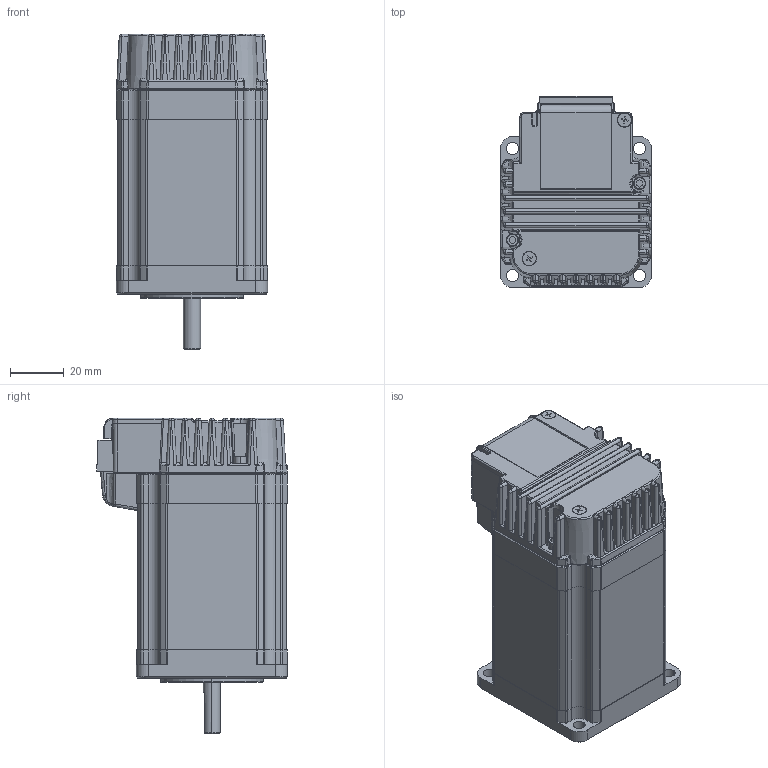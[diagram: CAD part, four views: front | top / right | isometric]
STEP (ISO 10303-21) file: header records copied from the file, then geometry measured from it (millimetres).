
FILE_DESCRIPTION (( 'STEP AP214' ), '1' );
FILE_NAME ('CM3-23L50A.STEP', '2021-03-15T16:19:06', ( '' ), ( '' ), 'SwSTEP 2.0', 'SolidWorks 2019', '' );
FILE_SCHEMA (( 'AUTOMOTIVE_DESIGN' ));
Length unit declared in the file: millimetre
Products named in the file (1): CM3-23L50A
Bounding box: 56 x 70.75 x 116.9 mm (x, y, z)
Volume: 277048.4 mm3; surface area: 40461.6 mm2
Topology: 1 solids, 10 shells, 1336 faces, 3448 edges, 2151 vertices
Faces by surface type: plane 585, cylinder 411, bspline 146, cone 81, torus 66, sphere 47
Entity records: 48978 total; most frequent: CARTESIAN_POINT 11362, ORIENTED_EDGE 6864, DIRECTION 6122, EDGE_CURVE 3432, VERTEX_POINT 2151, AXIS2_PLACEMENT_3D 2079, LINE 1964, VECTOR 1964
